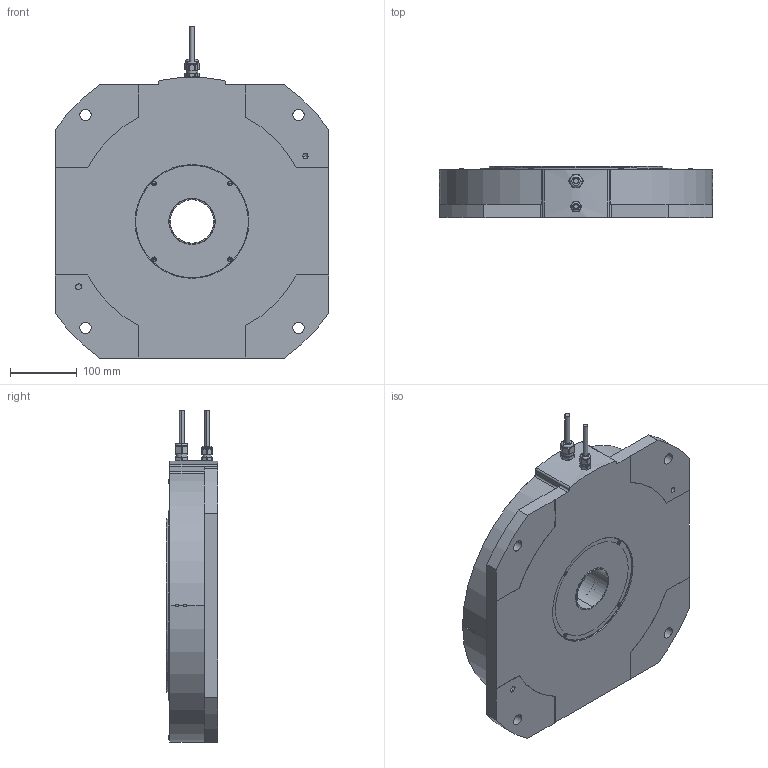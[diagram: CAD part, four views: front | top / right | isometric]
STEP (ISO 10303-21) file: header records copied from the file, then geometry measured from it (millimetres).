
FILE_DESCRIPTION (( 'STEP AP214' ), '1' );
FILE_NAME ('BZA01920.STEP', '2024-03-27T07:15:22', ( '' ), ( '' ), 'SwSTEP 2.0', 'SolidWorks 2023', '' );
FILE_SCHEMA (( 'AUTOMOTIVE_DESIGN' ));
Length unit declared in the file: millimetre
Products named in the file (1): BZA01920
Bounding box: 408 x 76.8 x 496 mm (x, y, z)
Volume: 3587904.7 mm3; surface area: 844161.5 mm2
Topology: 27 solids, 27 shells, 1038 faces, 2600 edges, 1631 vertices
Faces by surface type: cylinder 544, plane 251, cone 159, torus 62, sphere 22
Entity records: 33148 total; most frequent: CARTESIAN_POINT 7916, DIRECTION 5418, ORIENTED_EDGE 5052, EDGE_CURVE 2526, AXIS2_PLACEMENT_3D 2194, VERTEX_POINT 1631, EDGE_LOOP 1207, CIRCLE 1155
